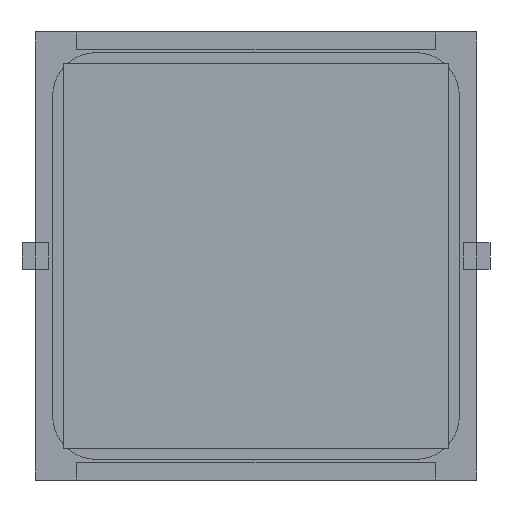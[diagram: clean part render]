
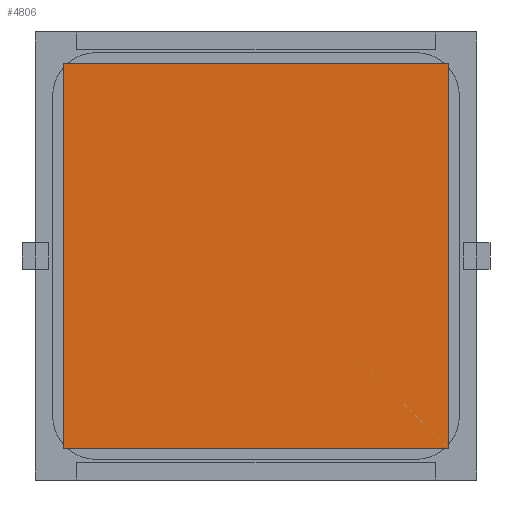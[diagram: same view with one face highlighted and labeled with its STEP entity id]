
A CAD part, front view. The second image highlights one B-rep face of the part: STEP entity #4806.
In plain terms, the highlighted planar face has unit normal (0, -1, 0).
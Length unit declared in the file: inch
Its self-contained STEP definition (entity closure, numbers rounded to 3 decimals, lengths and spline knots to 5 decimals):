
#40 = DIRECTION ( 'NONE',  ( 0., 0., -1. ) ) ;
#200 = DIRECTION ( 'NONE',  ( 1., 0., 0. ) ) ;
#473 = DIRECTION ( 'NONE',  ( 0., 0., 1. ) ) ;
#947 = EDGE_CURVE ( 'NONE', #1261, #7604, #8521, .T. ) ;
#1261 = VERTEX_POINT ( 'NONE', #3877 ) ;
#1327 = VECTOR ( 'NONE', #3311, 39.37008 ) ;
#2883 = FACE_OUTER_BOUND ( 'NONE', #8283, .T. ) ;
#2970 = CARTESIAN_POINT ( 'NONE',  ( -0.57087, -0.005, 0.57087 ) ) ;
#3007 = VECTOR ( 'NONE', #40, 39.37008 ) ;
#3181 = LINE ( 'NONE', #3813, #1327 ) ;
#3311 = DIRECTION ( 'NONE',  ( 0., 0., 1. ) ) ;
#3407 = VECTOR ( 'NONE', #200, 39.37008 ) ;
#3813 = CARTESIAN_POINT ( 'NONE',  ( -0.57087, -0.005, -0.57087 ) ) ;
#3877 = CARTESIAN_POINT ( 'NONE',  ( 0.57087, -0.005, -0.57087 ) ) ;
#4066 = CARTESIAN_POINT ( 'NONE',  ( 0.57087, -0.005, -0.57087 ) ) ;
#4183 = LINE ( 'NONE', #6838, #3407 ) ;
#4595 = LINE ( 'NONE', #4066, #3007 ) ;
#4806 = ADVANCED_FACE ( 'NONE', ( #2883 ), #7093, .F. ) ;
#5207 = CARTESIAN_POINT ( 'NONE',  ( -0.57087, -0.005, -0.57087 ) ) ;
#5493 = CARTESIAN_POINT ( 'NONE',  ( -0.57087, -0.005, 0.57087 ) ) ;
#5499 = VERTEX_POINT ( 'NONE', #5493 ) ;
#5540 = ORIENTED_EDGE ( 'NONE', *, *, #6850, .F. ) ;
#5636 = EDGE_CURVE ( 'NONE', #5829, #1261, #4595, .T. ) ;
#5676 = DIRECTION ( 'NONE',  ( 0., 1., 0. ) ) ;
#5829 = VERTEX_POINT ( 'NONE', #8407 ) ;
#6420 = DIRECTION ( 'NONE',  ( -1., 0., 0. ) ) ;
#6583 = ORIENTED_EDGE ( 'NONE', *, *, #947, .F. ) ;
#6665 = VECTOR ( 'NONE', #6420, 39.37008 ) ;
#6838 = CARTESIAN_POINT ( 'NONE',  ( -0.57087, -0.005, 0.57087 ) ) ;
#6850 = EDGE_CURVE ( 'NONE', #5499, #5829, #4183, .T. ) ;
#7093 = PLANE ( 'NONE',  #7234 ) ;
#7234 = AXIS2_PLACEMENT_3D ( 'NONE', #2970, #5676, #473 ) ;
#7246 = ORIENTED_EDGE ( 'NONE', *, *, #7845, .F. ) ;
#7604 = VERTEX_POINT ( 'NONE', #5207 ) ;
#7845 = EDGE_CURVE ( 'NONE', #7604, #5499, #3181, .T. ) ;
#8283 = EDGE_LOOP ( 'NONE', ( #7246, #6583, #8622, #5540 ) ) ;
#8407 = CARTESIAN_POINT ( 'NONE',  ( 0.57087, -0.005, 0.57087 ) ) ;
#8478 = CARTESIAN_POINT ( 'NONE',  ( -0.57087, -0.005, -0.57087 ) ) ;
#8521 = LINE ( 'NONE', #8478, #6665 ) ;
#8622 = ORIENTED_EDGE ( 'NONE', *, *, #5636, .F. ) ;
